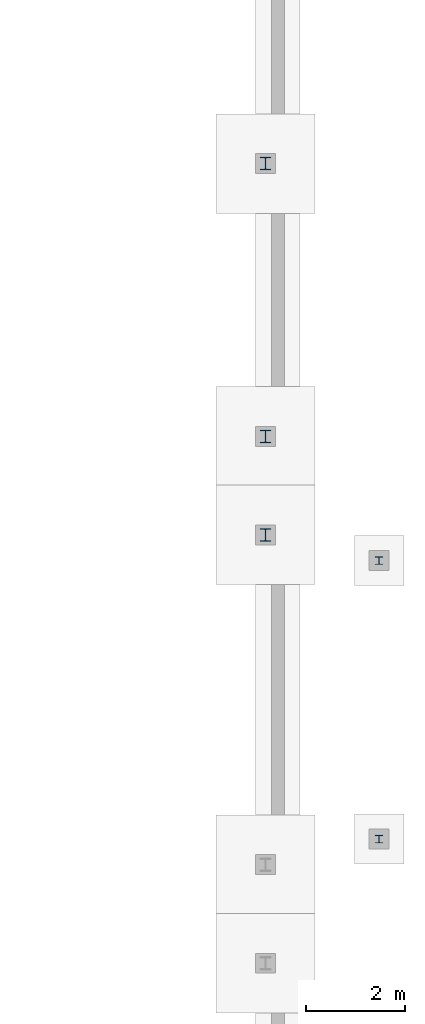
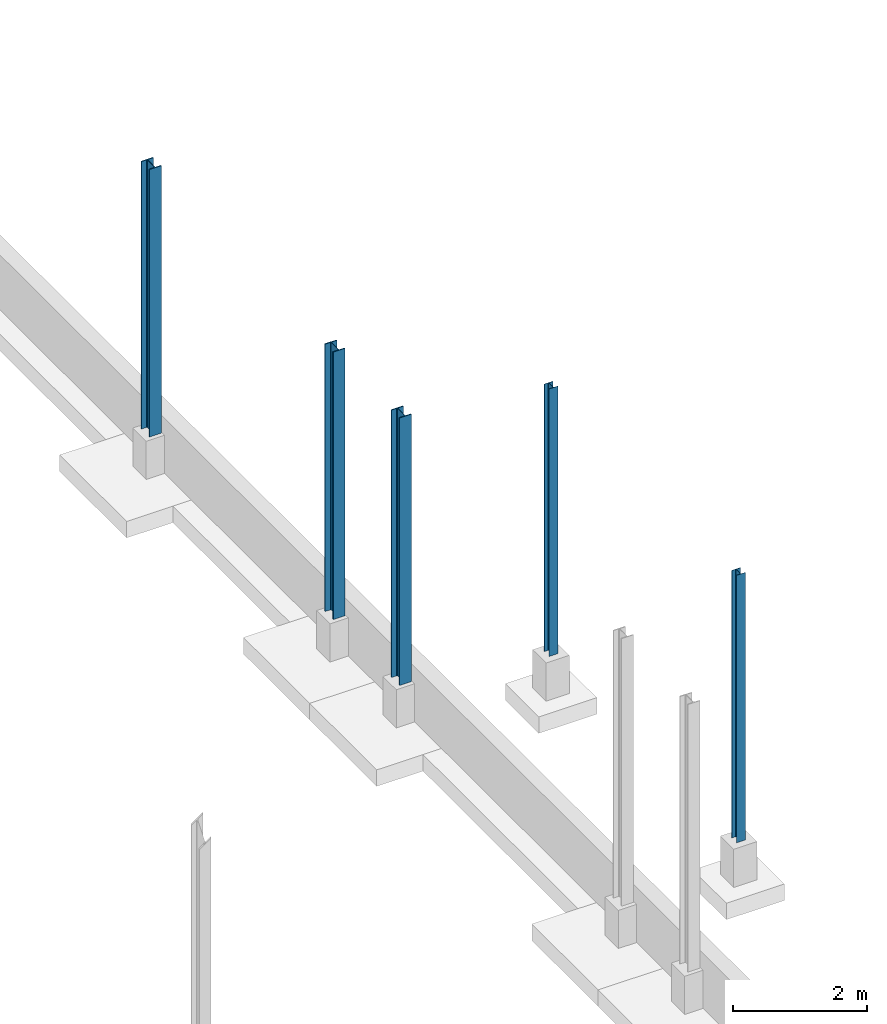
# One storey, part 7 of 11: 5 columns.
"""IFC2X3 building model written with IfcOpenShell, lengths in metres."""

from ifc_helpers import new_model, entity, si_unit, converted_unit, frame, frame_2d, origin, place, context, project, spatial, polyline, circle_curve, parameter, trimmed, segment, composite_curve, outline, extrude, source, transform, mapped, material, type_object, type_shapes, element, save


model = new_model("IFC2X3")

# Units and contexts
model_context = context("Model", 3, precision=1e-09, world=origin())
plan_context = context("Plan", 3, precision=1e-09, world=origin())
ifc_project = project(units=[si_unit("LENGTHUNIT", "METRE"), si_unit("AREAUNIT", "SQUARE_METRE"), si_unit("VOLUMEUNIT", "CUBIC_METRE"), converted_unit("PLANEANGLEUNIT", "DEGREE", entity("IfcRatioMeasure", 0.01745329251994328), si_unit("PLANEANGLEUNIT", "RADIAN"), dimensions=[0, 0, 0, 0, 0, 0, 0]), si_unit("TIMEUNIT", "SECOND")], contexts=[model_context, plan_context])

# Site, building, storey
site_placement = place(None, origin())
site = spatial("IfcSite", under=ifc_project, at=site_placement, Name="Default", CompositionType="ELEMENT")
building_placement = place(site_placement, origin())
building = spatial("IfcBuilding", under=site, at=building_placement, CompositionType="ELEMENT")
storey_placement = place(building_placement, frame((0.0, 0.0, -1.0)))
storey = spatial("IfcBuildingStorey", under=building, at=storey_placement, Name="TOF Footing", CompositionType="ELEMENT", Elevation=-1.000000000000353)

# Columns
ifc_material = material(Name="Metal - Steel - 345 MPa")
column_type_1 = type_object("IfcColumnType", Name="W250X67", PredefinedType="COLUMN")
shared_shape_1 = source(origin(), model_context, "Body", "SweptSolid", [
    extrude(outline(composite_curve([segment(polyline([(-0.102, -0.1285), (0.102, -0.1285)]), True, "CONTINUOUS"), segment(polyline([(0.102, -0.1285), (0.102, -0.1128)]), True, "CONTINUOUS"), segment(polyline([(0.102, -0.1128), (0.02174999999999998, -0.1128)]), True, "CONTINUOUS"), segment(trimmed(circle_curve(frame_2d((0.02174999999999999, -0.09549999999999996), x_axis=(-1.0, 0.0)), 0.0173), [parameter(4.071109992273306e-13)], [parameter(90.00000000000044)], True, "PARAMETER"), False, "CONTINUOUS"), segment(polyline([(0.004449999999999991, -0.09549999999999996), (0.004449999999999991, 0.09549999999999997)]), True, "CONTINUOUS"), segment(trimmed(circle_curve(frame_2d((0.02174999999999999, 0.09549999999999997), x_axis=(-1.0, 0.0)), 0.0173), [parameter(270.0000000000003)], [parameter(3.562221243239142e-13)], True, "PARAMETER"), False, "CONTINUOUS"), segment(polyline([(0.02174999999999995, 0.1128), (0.102, 0.1128)]), True, "CONTINUOUS"), segment(polyline([(0.102, 0.1128), (0.102, 0.1285)]), True, "CONTINUOUS"), segment(polyline([(0.102, 0.1285), (-0.102, 0.1285)]), True, "CONTINUOUS"), segment(polyline([(-0.102, 0.1285), (-0.102, 0.1128)]), True, "CONTINUOUS"), segment(polyline([(-0.102, 0.1128), (-0.02174999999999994, 0.1128)]), True, "CONTINUOUS"), segment(trimmed(circle_curve(frame_2d((-0.02175000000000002, 0.09549999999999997), x_axis=(-1.0, 0.0)), 0.0173), [parameter(179.9999999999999)], [parameter(269.9999999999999)], True, "PARAMETER"), False, "CONTINUOUS"), segment(polyline([(-0.004450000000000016, 0.09550000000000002), (-0.004450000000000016, -0.09549999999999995)]), True, "CONTINUOUS"), segment(trimmed(circle_curve(frame_2d((-0.02175000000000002, -0.09549999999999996), x_axis=(-1.0, 0.0)), 0.0173), [parameter(90.00000000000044)], [parameter(180.0000000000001)], True, "PARAMETER"), False, "CONTINUOUS"), segment(polyline([(-0.02175000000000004, -0.1128), (-0.102, -0.1128)]), True, "CONTINUOUS"), segment(polyline([(-0.102, -0.1128), (-0.102, -0.1285)]), True, "CONTINUOUS")], self_intersect=False)), frame((0.0, 0.0, -0.305000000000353), z_axis=(0.0, 0.0, 1.0), x_axis=(-1.0, 0.0, 0.0)), (0.0, 0.0, 1.0), 4.87500000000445),
])
type_shapes(column_type_1, [shared_shape_1])
for number, where, z_axis, x_axis in (
    (1, (0.0, 35.00999999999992, 1.0), (0.0, 0.0, 1.0), (-1.0, 0.0, 0.0)),
    (2, (0.0, 36.99124480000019, 1.0), (0.0, 0.0, 1.0), (-1.0, 0.0, 0.0)),
    (3, (0.0, 42.47764480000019, 1.0), (0.0, 0.0, 1.0), (-1.0, 0.0, 0.0)),
):
    element("IfcColumn", number, at=place(storey_placement, frame(where, z_axis=z_axis, x_axis=x_axis)), inside=storey, type_object=column_type_1, material=ifc_material, Name="M_W-Wide Flange-Column:W250X67:W250X67", ObjectType="W250X67", context=model_context, shape_type="MappedRepresentation", body=[
        mapped(shared_shape_1, transform((0.0, 0.0, 0.0), scale=1.0)),
    ])
column_type_2 = type_object("IfcColumnType", Name="W150X22.5", PredefinedType="COLUMN")
shared_shape_2 = source(origin(), model_context, "Body", "SweptSolid", [
    extrude(outline(composite_curve([segment(polyline([(-0.07599999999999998, -0.07599999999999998), (0.07599999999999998, -0.07599999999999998)]), True, "CONTINUOUS"), segment(polyline([(0.07599999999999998, -0.07599999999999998), (0.07599999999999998, -0.06939999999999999)]), True, "CONTINUOUS"), segment(polyline([(0.07599999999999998, -0.06939999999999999), (0.0143, -0.0694)]), True, "CONTINUOUS"), segment(trimmed(circle_curve(frame_2d((0.0143, -0.05799999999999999), x_axis=(-1.0, 0.0)), 0.0114), [parameter(4.071109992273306e-13)], [parameter(90.00000000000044)], True, "PARAMETER"), False, "CONTINUOUS"), segment(polyline([(0.002899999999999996, -0.05799999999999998), (0.002899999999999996, 0.05800000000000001)]), True, "CONTINUOUS"), segment(trimmed(circle_curve(frame_2d((0.0143, 0.058), x_axis=(-1.0, 0.0)), 0.0114), [parameter(270.0000000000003)], [parameter(4.071109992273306e-13)], True, "PARAMETER"), False, "CONTINUOUS"), segment(polyline([(0.01429999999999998, 0.06939999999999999), (0.07599999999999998, 0.06939999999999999)]), True, "CONTINUOUS"), segment(polyline([(0.07599999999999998, 0.06939999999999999), (0.07599999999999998, 0.07599999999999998)]), True, "CONTINUOUS"), segment(polyline([(0.07599999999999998, 0.07599999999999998), (-0.07599999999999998, 0.07599999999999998)]), True, "CONTINUOUS"), segment(polyline([(-0.07599999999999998, 0.07599999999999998), (-0.07599999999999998, 0.06939999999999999)]), True, "CONTINUOUS"), segment(polyline([(-0.07599999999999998, 0.06939999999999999), (-0.01429999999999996, 0.0694)]), True, "CONTINUOUS"), segment(trimmed(circle_curve(frame_2d((-0.0143, 0.058), x_axis=(-1.0, 0.0)), 0.0114), [parameter(180.0)], [parameter(270.0)], True, "PARAMETER"), False, "CONTINUOUS"), segment(polyline([(-0.002899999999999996, 0.05800000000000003), (-0.002899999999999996, -0.05799999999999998)]), True, "CONTINUOUS"), segment(trimmed(circle_curve(frame_2d((-0.0143, -0.05799999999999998), x_axis=(-1.0, 0.0)), 0.0114), [parameter(90.0000000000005)], [parameter(180.0000000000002)], True, "PARAMETER"), False, "CONTINUOUS"), segment(polyline([(-0.01430000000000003, -0.06939999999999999), (-0.07599999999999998, -0.06939999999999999)]), True, "CONTINUOUS"), segment(polyline([(-0.07599999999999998, -0.06939999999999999), (-0.07599999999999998, -0.07599999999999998)]), True, "CONTINUOUS")], self_intersect=False)), frame((0.0, 0.0, -0.305000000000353), z_axis=(0.0, 0.0, 1.0), x_axis=(-1.0, 0.0, 0.0)), (0.0, 0.0, 1.0), 4.875000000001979),
])
type_shapes(column_type_2, [shared_shape_2])
column_1_placement = place(storey_placement, frame((2.284999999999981, 34.49499999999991, 1.0), z_axis=(0.0, 0.0, 1.0), x_axis=(-1.0, 0.0, 0.0)))
element("IfcColumn", 4, at=column_1_placement, inside=storey, type_object=column_type_2, material=ifc_material, Name="M_W-Wide Flange-Column:W150X22.5:W150X22.5", ObjectType="W150X22.5", context=model_context, shape_type="MappedRepresentation", body=[
    mapped(shared_shape_2, transform((0.0, 0.0, 0.0), scale=1.0)),
])
column_2_placement = place(storey_placement, frame((2.284999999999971, 28.89499999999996, 1.0)))
element("IfcColumn", 5, at=column_2_placement, inside=storey, type_object=column_type_2, material=ifc_material, Name="M_W-Wide Flange-Column:W150X22.5:W150X22.5", ObjectType="W150X22.5", context=model_context, shape_type="MappedRepresentation", body=[
    mapped(shared_shape_2, transform((0.0, 0.0, 0.0), scale=1.0)),
])

save(model, "model.ifc")
